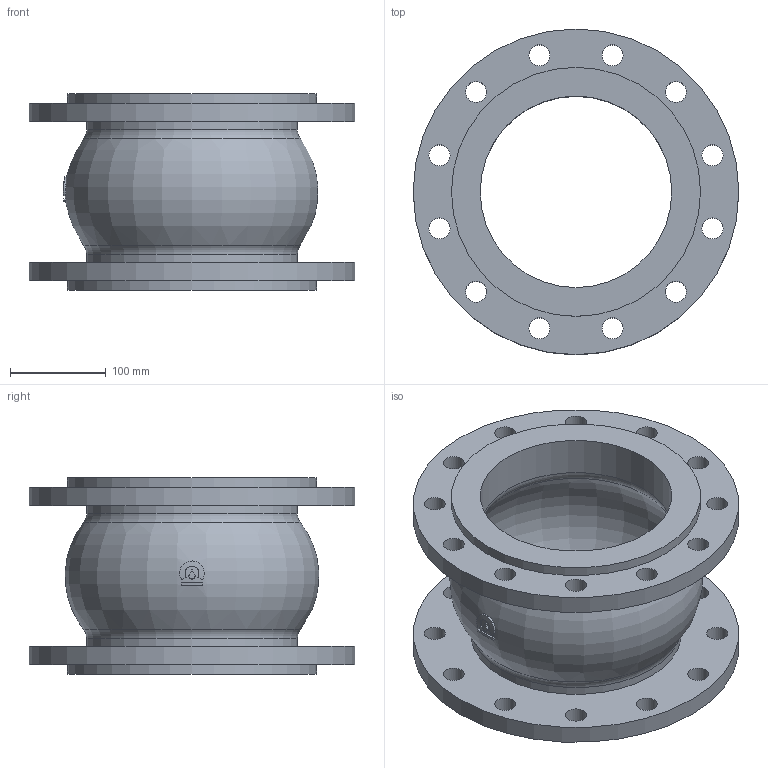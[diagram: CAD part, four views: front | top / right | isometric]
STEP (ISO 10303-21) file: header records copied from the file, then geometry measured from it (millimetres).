
FILE_DESCRIPTION(('STEP AP203'), '1');
FILE_NAME('Êîìïåíñàòîð KMS DN200 PN16_L205', '', ('UNSPECIFIED'), ('UNSPECIFIED'), 'ASCON STEP Converter 1.6', 'ASCON Math Kernel', '');
FILE_SCHEMA(('CONFIG_CONTROL_DESIGN'));
Length unit declared in the file: millimetre
Bounding box: 340 x 340 x 205 mm (x, y, z)
Volume: 3679893 mm3; surface area: 562713.7 mm2
Topology: 1 solids, 1 shells, 61 faces, 148 edges, 96 vertices
Faces by surface type: cylinder 39, plane 13, torus 9
Full cylindrical faces by diameter (mm): 22 x24, 200 x2, 220 x2, 260 x2, 340 x2
Entity records: 3017 total; most frequent: CARTESIAN_POINT 1084, DIRECTION 286, ORIENTED_EDGE 220, EDGE_LOOP 156, AXIS2_PLACEMENT_3D 136, EDGE_CURVE 110, VERTEX_POINT 96, FACE_BOUND 80
